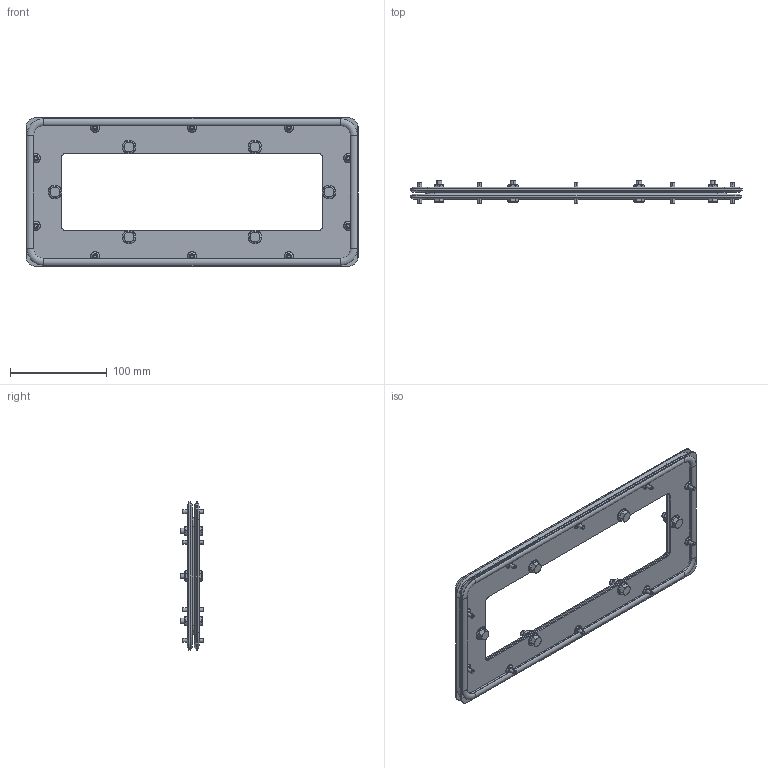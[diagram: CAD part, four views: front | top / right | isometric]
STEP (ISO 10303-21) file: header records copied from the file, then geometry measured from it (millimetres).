
FILE_DESCRIPTION (( 'STEP AP203' ), '1' );
FILE_NAME ('R5RKE01.step', '2024-11-15T06:37:01', ( '' ), ( '' ), 'SwSTEP 2.0', 'SolidWorks 2022', '' );
FILE_SCHEMA (( 'CONFIG_CONTROL_DESIGN' ));
Length unit declared in the file: millimetre
Products named in the file (9): RB.3238.00.00.0 СБ; M6 DIN 6923 cl.8,0 Zinc_straight; RB.3238.00.00.0 СБ_-01; PF 4x8 R5RKE_153x343; RB.3238.00.01.0; M4x10 DIN 7500 M PZ cl.4,8 Zinc_straight; M6x16 DIN 6921 cl.8,8 Zinc_straight; R5RKE01; PF 4x8 flange ST_02
Assembly tree (41 placements, depth 3):
  R5RKE01
    RB.3238.00.00.0 СБ
      RB.3238.00.01.0
      PF 4x8 flange ST_02
    RB.3238.00.00.0 СБ_-01
      RB.3238.00.01.0
      PF 4x8 flange ST_02
      PF 4x8 R5RKE_153x343
    M4x10 DIN 7500 M PZ cl.4,8 Zinc_straight  x20
    M6x16 DIN 6921 cl.8,8 Zinc_straight  x7
    M6 DIN 6923 cl.8,0 Zinc_straight  x7
Bounding box: 343 x 24.5 x 153 mm (x, y, z)
Volume: 163212.7 mm3; surface area: 195349.5 mm2
Topology: 39 solids, 39 shells, 1519 faces, 3529 edges, 2094 vertices
Faces by surface type: plane 596, cone 442, cylinder 199, torus 190, bspline 92
Entity records: 11315 total; most frequent: CARTESIAN_POINT 2509, DIRECTION 1600, ORIENTED_EDGE 1372, EDGE_CURVE 686, AXIS2_PLACEMENT_3D 677, VERTEX_POINT 418, CIRCLE 356, EDGE_LOOP 342
